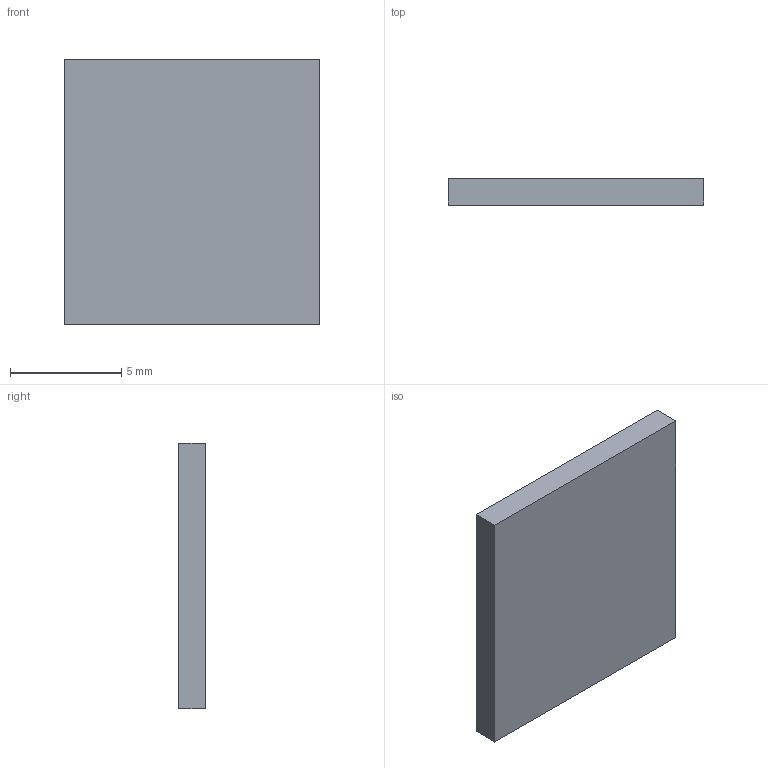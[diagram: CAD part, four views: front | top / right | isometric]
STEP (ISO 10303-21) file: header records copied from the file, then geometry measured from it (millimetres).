
FILE_DESCRIPTION(('Open CASCADE Model'),'2;1');
FILE_NAME('Open CASCADE Shape Model','2026-08-18T10:55:12',('Author'),( 'Open CASCADE'),'Open CASCADE STEP processor 7.9','Open CASCADE 7.9' ,'Unknown');
FILE_SCHEMA(('AUTOMOTIVE_DESIGN { 1 0 10303 214 1 1 1 1 }'));
Length unit declared in the file: millimetre
Products named in the file (1): micro_sd_slot
Bounding box: 11.53 x 1.2 x 11.95 mm (x, y, z)
Volume: 165.3 mm3; surface area: 331.9 mm2
Topology: 1 solids, 1 shells, 6 faces, 12 edges, 8 vertices
Faces by surface type: plane 6
Entity records: 322 total; most frequent: CARTESIAN_POINT 51, DIRECTION 50, LINE 36, VECTOR 36, ORIENTED_EDGE 24, PCURVE 24, DEFINITIONAL_REPRESENTATION 24, EDGE_CURVE 12
